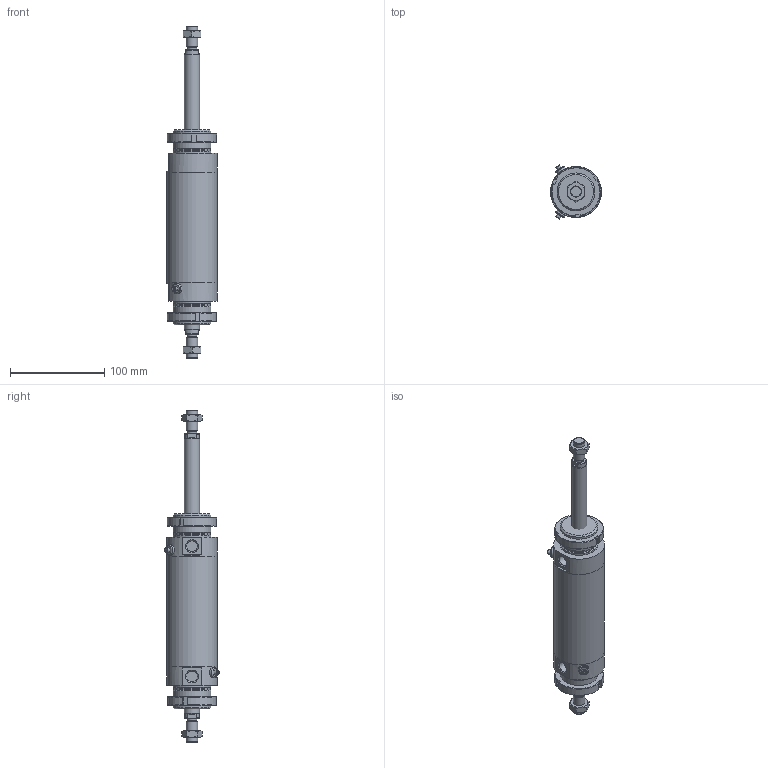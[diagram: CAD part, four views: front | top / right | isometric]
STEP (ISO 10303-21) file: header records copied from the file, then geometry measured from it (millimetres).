
FILE_DESCRIPTION(/* description */ (''),/* implementation_level */ '2;1');
FILE_NAME(/* name */ 'I:\Area Tecnica\Documenti\A-Manieri\_Inventor\12X\12X#S_###_####_#_#\12XDS_050_0075_#_#.stp',/* time_stamp */ '2015-05-13T08:20:22+02:00',/* author */ ('maniean1'),/* organization */ ('Pneumax S.p.A.'),/* preprocessor_version */ 'ST-DEVELOPER v15.2',/* originating_system */ 'Autodesk Inventor 2014',/* authorisation */ '');
FILE_SCHEMA (('AUTOMOTIVE_DESIGN { 1 0 10303 214 3 1 1 }'));
Length unit declared in the file: millimetre
Products named in the file (6): C1250_619-0075; 12X50_606; SP12X50_0075; 12X_50_11; G12X_050_05; 12XDS_050_0075_#_#
Bounding box: 54 x 57.75 x 352 mm (x, y, z)
Volume: 333715.7 mm3; surface area: 101403.8 mm2
Topology: 8 solids, 8 shells, 151 faces, 345 edges, 222 vertices
Faces by surface type: plane 78, cylinder 37, cone 34, torus 2
Full cylindrical faces by diameter (mm): 5 x2, 10.2 x2, 11 x2, 11.4 x2, 12 x4, 14 x2, 15.6 x2, 16 x2, 38.2 x2, 40 x6, 50 x2, 54 x3
Entity records: 2556 total; most frequent: CARTESIAN_POINT 505, DIRECTION 428, ORIENTED_EDGE 342, AXIS2_PLACEMENT_3D 182, EDGE_CURVE 171, EDGE_LOOP 144, VERTEX_POINT 129, ADVANCED_FACE 94
